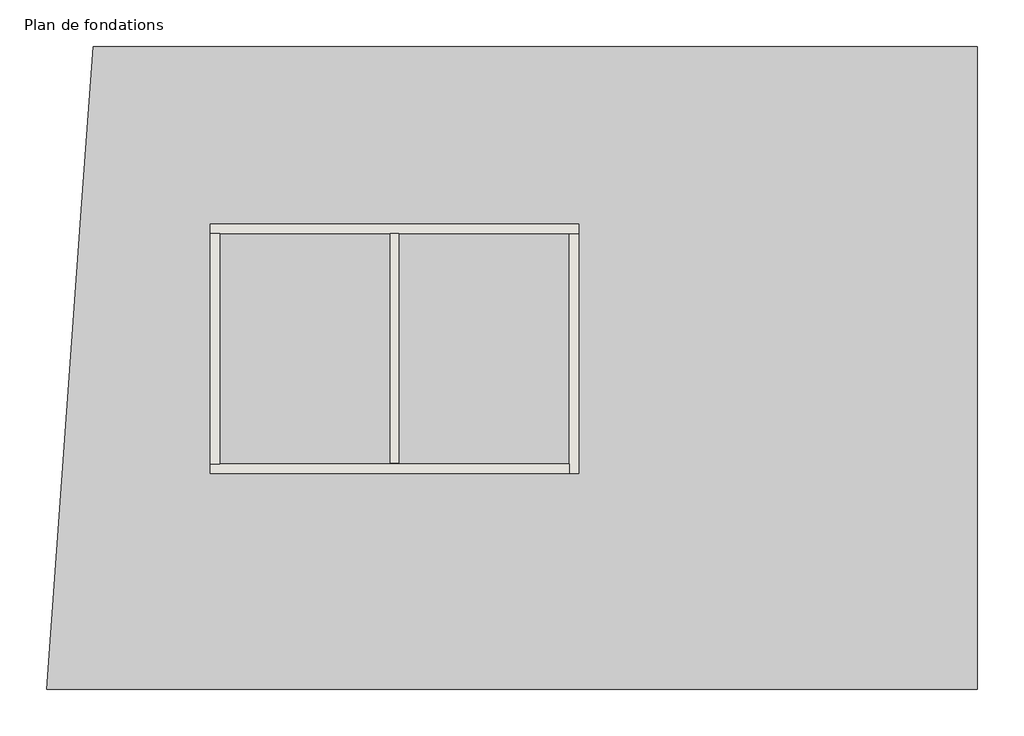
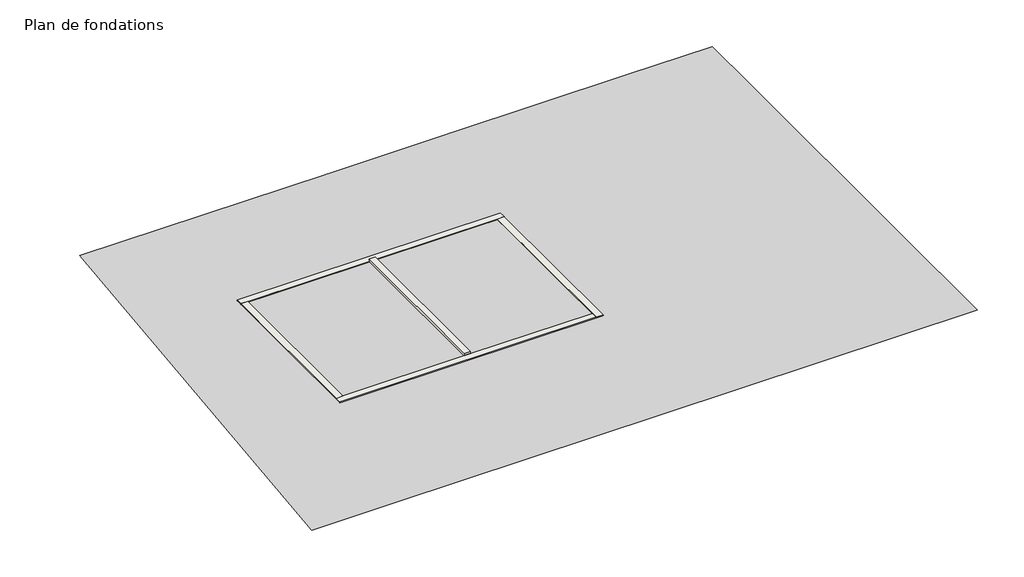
# One storey: 5 footings, 5 walls, 1 proxy.
"""IFC4 building model written with IfcOpenShell, lengths in millimetres."""

from ifc_helpers import new_model, si_unit, frame, origin, place, context, project, spatial, polyline, outline, extrude, faceted_brep, triangles, element, save

model = new_model("IFC4")

# Units and contexts
model_context = context("Model", 3, world=origin())
ifc_project = project(units=[si_unit("LENGTHUNIT", "METRE", prefix="MILLI")], contexts=[model_context])

# Site, building, storey
site = spatial("IfcSite", under=ifc_project)
building = spatial("IfcBuilding", under=site)
storey = spatial("IfcBuildingStorey", under=building, Name="Plan de fondations", Elevation=-500.0)

# Proxy
placement = place(None, origin())
element("IfcBuildingElementProxy", 1, Name="Building Element Proxy", at=placement, inside=storey, context=model_context, shape_type="Tessellation", body=[
    triangles([(-6729.5613281, 31676.9455444, -100.0000008), (-1610.9358273, 30719.0737793, -100.0000008), (1442.2794067, 31676.9455444, -100.0000008), (5513.2332458, 31676.9455444, -100.0000008), (-1341.5345387, 29461.8691223, -100.0000008), (-6997.3996307, 27975.9133118, -100.0000008), (-6729.5613281, 22247.9001526, -100.0000008), (-5053.2863205, 16476.9465912, -100.0000008), (-7829.5616272, 16476.9465912, -100.0000008), (3687.2906296, 16476.9465912, -100.0000008), (9165.117897, 21050.5592834, -100.0000008), (12757.1364349, 27306.6588135, -100.0000008), (11350.2618439, 31676.9455444, -100.0000008), (14170.4385406, 29521.7352356, -100.0000008), (14170.4385406, 20841.0255615, -100.0000008), (14170.4385406, 31676.9455444, -100.0000008), (14170.4385406, 16476.9465912, -100.0000008)], [[14, 12, 15], [6, 9, 7], [6, 7, 5], [8, 7, 9], [10, 5, 7], [1, 2, 3], [1, 6, 2], [5, 3, 2], [4, 3, 5], [6, 5, 2], [10, 7, 8], [11, 4, 5], [11, 10, 17], [11, 5, 10], [17, 15, 11], [14, 13, 12], [11, 15, 12], [4, 11, 12], [13, 4, 12], [14, 16, 13]], closed=False),
])

# Footings
element("IfcFooting", 2, ObjectType="Soubassement 20cm/20cm x 30cm", at=placement, inside=storey, context=model_context, shape_type="Brep", body=[
    faceted_brep([(4922.180156, 22006.1413117, -500.0), (4322.180156, 22006.1413117, -500.0), (692.180156, 22006.1413117, -500.0), (92.180156, 22006.1413117, -500.0), (-3537.819844, 22006.1413117, -500.0), (-4137.819844, 22006.1413117, -500.0), (-4137.819844, 21406.1413117, -500.0), (4922.180156, 21406.1413117, -500.0), (4922.180156, 21406.1413117, -800.0), (-4137.819844, 21406.1413117, -800.0), (4922.180156, 22006.1413117, -800.0), (-4137.819844, 22006.1413117, -800.0), (-3537.819844, 22006.1413117, -800.0), (92.180156, 22006.1413117, -800.0), (692.180156, 22006.1413117, -800.0), (4322.180156, 22006.1413117, -800.0)], [[[0, 1, 2, 3, 4, 5, 6, 7]], [[8, 7, 6, 9]], [[10, 8, 9, 11, 12, 13, 14, 15]], [[0, 10, 15, 14, 13, 12, 11, 5, 4, 3, 2, 1]], [[0, 7, 8, 10]], [[6, 5, 11, 9]]]),
])
element("IfcFooting", 3, ObjectType="Soubassement 20cm/20cm x 30cm", at=placement, inside=storey, context=model_context, shape_type="Brep", body=[
    faceted_brep([(4922.180156, 27656.1413117, -500.0), (4322.180156, 27656.1413117, -500.0), (4322.180156, 27056.1413117, -500.0), (4322.180156, 22006.1413117, -500.0), (4922.180156, 22006.1413117, -500.0), (4922.180156, 27656.1413117, -800.0), (4922.180156, 22006.1413117, -800.0), (4322.180156, 27656.1413117, -800.0), (4322.180156, 22006.1413117, -800.0), (4322.180156, 27056.1413117, -800.0)], [[[0, 1, 2, 3, 4]], [[5, 0, 4, 6]], [[7, 5, 6, 8, 9]], [[1, 7, 9, 8, 3, 2]], [[1, 0, 5, 7]], [[4, 3, 8, 6]]]),
])
element("IfcFooting", 4, ObjectType="Soubassement 20cm/20cm x 30cm", at=placement, inside=storey, context=model_context, shape_type="Brep", body=[
    faceted_brep([(-4137.819844, 27656.1413117, -500.0), (-4137.819844, 27056.1413117, -500.0), (-3537.819844, 27056.1413117, -500.0), (92.180156, 27056.1413117, -500.0), (692.180156, 27056.1413117, -500.0), (4322.180156, 27056.1413117, -500.0), (4322.180156, 27656.1413117, -500.0), (-4137.819844, 27056.1413117, -800.0), (-3537.819844, 27056.1413117, -800.0), (92.180156, 27056.1413117, -800.0), (692.180156, 27056.1413117, -800.0), (4322.180156, 27056.1413117, -800.0), (-4137.819844, 27656.1413117, -800.0), (4322.180156, 27656.1413117, -800.0)], [[[0, 1, 2, 3, 4, 5, 6]], [[1, 7, 8, 9, 10, 11, 5, 4, 3, 2]], [[7, 12, 13, 11, 10, 9, 8]], [[12, 0, 6, 13]], [[1, 0, 12, 7]], [[6, 5, 11, 13]]]),
])
element("IfcFooting", 5, ObjectType="Soubassement 20cm/20cm x 30cm", at=placement, inside=storey, context=model_context, shape_type="SweptSolid", body=[
    extrude(outline(polyline([(-3537.819844, 22006.1413117), (-4137.819844, 22006.1413117), (-4137.819844, 27056.1413117), (-3537.819844, 27056.1413117), (-3537.819844, 22006.1413117)])), frame((0.0, 0.0, -800.0), z_axis=(0.0, 0.0, 1.0), x_axis=(1.0, 0.0, 0.0)), (0.0, 0.0, 1.0), 300.0),
])
element("IfcFooting", 6, ObjectType="Soubassement 20cm/20cm x 30cm refend", at=placement, inside=storey, context=model_context, shape_type="SweptSolid", body=[
    extrude(outline(polyline([(692.180156, 22006.1413117), (92.180156, 22006.1413117), (92.180156, 27056.1413117), (692.180156, 27056.1413117), (692.180156, 22006.1413117)])), frame((0.0, 0.0, -800.0), z_axis=(0.0, 0.0, 1.0), x_axis=(1.0, 0.0, 0.0)), (0.0, 0.0, 1.0), 300.0),
])

# Walls
element("IfcWall", 7, ObjectType="Ext. Parpaing + enduit mortier", at=placement, inside=storey, context=model_context, shape_type="Brep", body=[
    faceted_brep([(4522.180156, 27256.1413117, -500.0), (4522.180156, 21806.1413117, -500.0), (4522.180156, 21586.1413117, -500.0), (4522.180156, 21586.1413117, -70.0), (4522.180156, 21806.1413117, -70.0), (4522.180156, 27256.1413117, -70.0), (4742.180156, 27256.1413117, -500.0), (4742.180156, 27256.1413117, -70.0), (4742.180156, 27236.1413117, -70.0), (4742.180156, 21586.1413117, -70.0), (4742.180156, 21586.1413117, -500.0)], [[[0, 1, 2, 3, 4, 5]], [[6, 7, 8, 9, 10]], [[2, 1, 0, 6, 10]], [[5, 4, 3, 9, 8, 7]], [[3, 2, 10, 9]], [[0, 5, 7, 6]]]),
])
element("IfcWall", 8, ObjectType="Ext. Parpaing + enduit mortier", at=placement, inside=storey, context=model_context, shape_type="Brep", body=[
    faceted_brep([(4522.180156, 21806.1413117, -500.0), (492.180156, 21806.1413117, -500.0), (292.180156, 21806.1413117, -500.0), (-3737.819844, 21806.1413117, -500.0), (-3957.819844, 21806.1413117, -500.0), (-3957.819844, 21806.1413117, -70.0), (-3737.819844, 21806.1413117, -70.0), (292.180156, 21806.1413117, -70.0), (492.180156, 21806.1413117, -70.0), (4522.180156, 21806.1413117, -70.0), (4522.180156, 21586.1413117, -500.0), (4522.180156, 21586.1413117, -70.0), (-3957.819844, 21586.1413117, -70.0), (-3957.819844, 21586.1413117, -500.0)], [[[0, 1, 2, 3, 4, 5, 6, 7, 8, 9]], [[10, 11, 12, 13]], [[4, 3, 2, 1, 0, 10, 13]], [[9, 8, 7, 6, 5, 12, 11]], [[0, 9, 11, 10]], [[5, 4, 13, 12]]]),
])
element("IfcWall", 9, ObjectType="Ext. Parpaing + enduit mortier", at=placement, inside=storey, context=model_context, shape_type="Brep", body=[
    faceted_brep([(-3737.819844, 21806.1413117, -500.0), (-3737.819844, 27256.1413117, -500.0), (-3737.819844, 27256.1413117, -70.0), (-3737.819844, 21806.1413117, -70.0), (-3957.819844, 21806.1413117, -500.0), (-3957.819844, 21806.1413117, -70.0), (-3957.819844, 21826.1413117, -70.0), (-3957.819844, 27236.1413117, -70.0), (-3957.819844, 27256.1413117, -70.0), (-3957.819844, 27256.1413117, -500.0)], [[[0, 1, 2, 3]], [[4, 5, 6, 7, 8, 9]], [[1, 0, 4, 9]], [[3, 2, 8, 7, 6, 5]], [[2, 1, 9, 8]], [[0, 3, 5, 4]]]),
])
element("IfcWall", 10, ObjectType="Ext. Parpaing + enduit mortier", at=placement, inside=storey, context=model_context, shape_type="Brep", body=[
    faceted_brep([(4742.180156, 27476.1413117, -500.0), (-3957.819844, 27476.1413117, -500.0), (-3957.819844, 27476.1413117, -70.0), (4742.180156, 27476.1413117, -70.0), (4742.180156, 27256.1413117, -500.0), (4742.180156, 27256.1413117, -70.0), (4522.180156, 27256.1413117, -70.0), (-3737.819844, 27256.1413117, -70.0), (-3957.819844, 27256.1413117, -70.0), (-3957.819844, 27256.1413117, -500.0), (-3737.819844, 27256.1413117, -500.0), (292.180156, 27256.1413117, -500.0), (492.180156, 27256.1413117, -500.0), (4522.180156, 27256.1413117, -500.0)], [[[0, 1, 2, 3]], [[4, 5, 6, 7, 8, 9, 10, 11, 12, 13]], [[1, 0, 4, 13, 12, 11, 10, 9]], [[3, 2, 8, 7, 6, 5]], [[0, 3, 5, 4]], [[2, 1, 9, 8]]]),
])
element("IfcWall", 11, ObjectType="Ext. Parpaing soubassement", at=placement, inside=storey, context=model_context, shape_type="SweptSolid", body=[
    extrude(outline(polyline([(21806.1413117, -500.0), (21806.1413117, -70.0), (21826.1413117, -70.0), (21826.1413117, 0.0), (27256.1413117, 0.0), (27256.1413117, -500.0), (21806.1413117, -500.0)])), frame((292.180156, 0.0, 0.0), z_axis=(1.0, 0.0, 0.0), x_axis=(0.0, 1.0, 0.0)), (0.0, 0.0, 1.0), 200.0),
])

save(model, "model.ifc")
